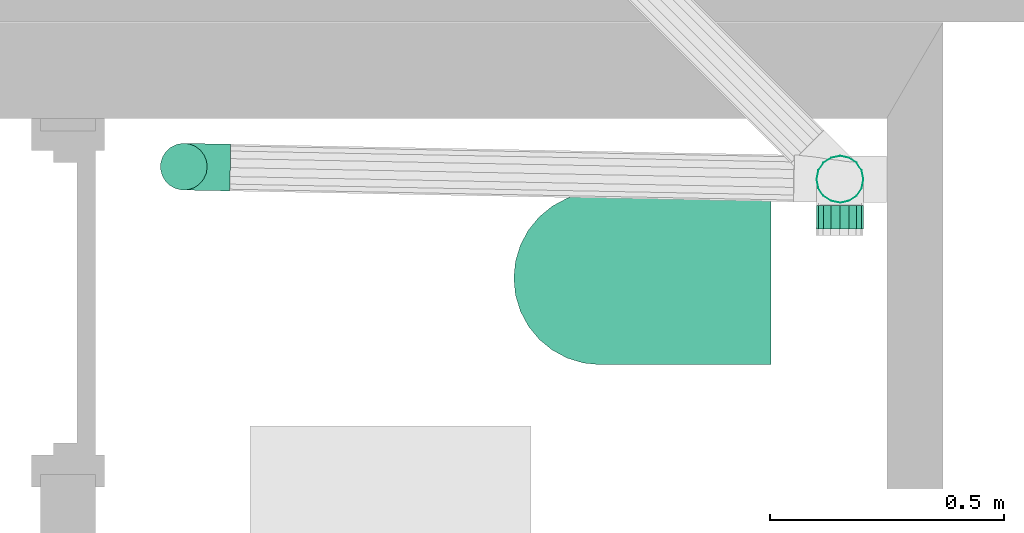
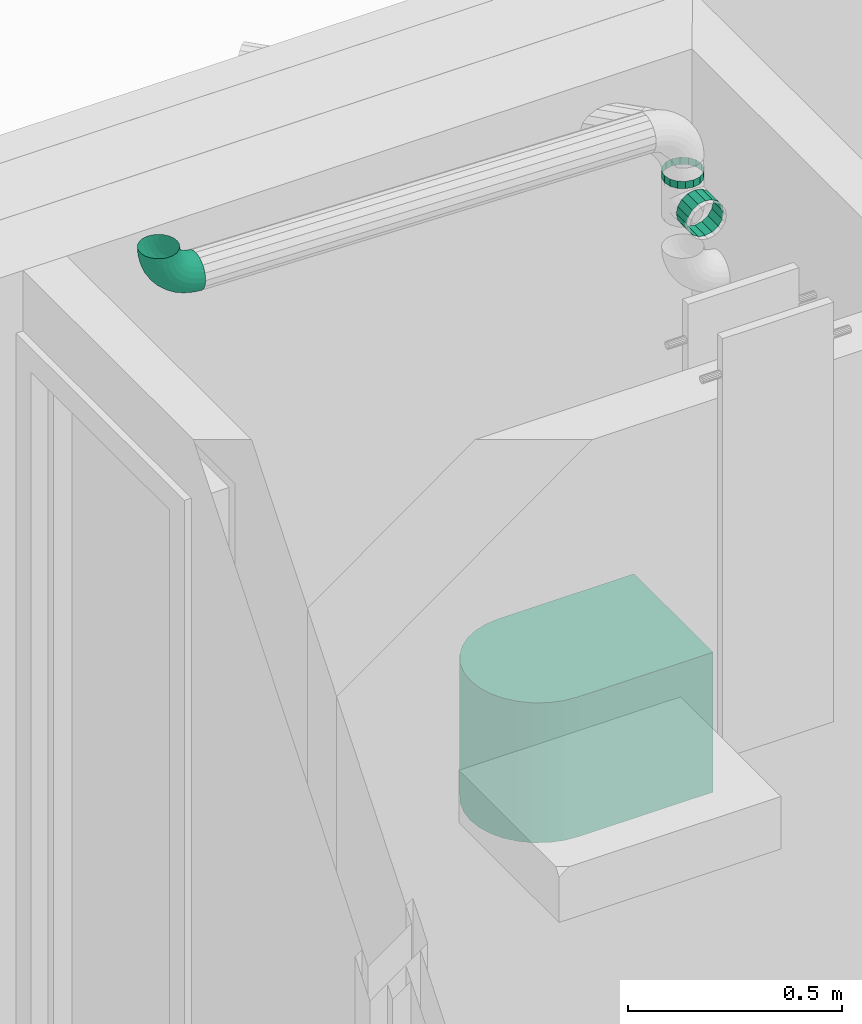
# One storey, part 17 of 23: 2 flow segments, 1 flow fitting, 1 flow terminal.
"""IFC2X3 building model written with IfcOpenShell, lengths in metres."""

from ifc_helpers import new_model, entity, si_unit, converted_unit, derived_unit, money_unit, direction, frame, origin_with_axes, place, context, subcontext, project, spatial, open_shell, faceted_brep, surface_model, material, type_object, element, save


model = new_model("IFC2X3")

# Units and contexts
model_context = context("Model", 3, precision=1e-05, world=origin_with_axes(), true_north=direction((0.0, 1.0)))
body_context = subcontext(model_context, "Body", "Model", "MODEL_VIEW", scale=1.0)
ifc_project = project(units=[si_unit("LENGTHUNIT", "METRE"), si_unit("AREAUNIT", "SQUARE_METRE"), si_unit("VOLUMEUNIT", "CUBIC_METRE"), si_unit("ABSORBEDDOSEUNIT", "GRAY"), si_unit("AMOUNTOFSUBSTANCEUNIT", "MOLE"), si_unit("DOSEEQUIVALENTUNIT", "SIEVERT"), si_unit("ELECTRICCAPACITANCEUNIT", "FARAD"), si_unit("ELECTRICCHARGEUNIT", "COULOMB"), si_unit("ELECTRICCONDUCTANCEUNIT", "SIEMENS"), si_unit("ELECTRICCURRENTUNIT", "AMPERE"), si_unit("ELECTRICRESISTANCEUNIT", "OHM"), si_unit("ELECTRICVOLTAGEUNIT", "VOLT"), si_unit("ENERGYUNIT", "JOULE"), si_unit("FORCEUNIT", "NEWTON"), si_unit("FREQUENCYUNIT", "HERTZ"), si_unit("ILLUMINANCEUNIT", "LUX"), si_unit("INDUCTANCEUNIT", "HENRY"), si_unit("LUMINOUSFLUXUNIT", "LUMEN"), si_unit("LUMINOUSINTENSITYUNIT", "CANDELA"), si_unit("MAGNETICFLUXDENSITYUNIT", "TESLA"), si_unit("MAGNETICFLUXUNIT", "WEBER"), si_unit("MASSUNIT", "GRAM"), converted_unit("PLANEANGLEUNIT", "degree", entity("IfcReal", 0.0174532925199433), si_unit("PLANEANGLEUNIT", "RADIAN"), dimensions=[0, 0, 0, 0, 0, 0, 0]), si_unit("POWERUNIT", "WATT"), si_unit("PRESSUREUNIT", "PASCAL"), si_unit("RADIOACTIVITYUNIT", "BECQUEREL"), si_unit("SOLIDANGLEUNIT", "STERADIAN"), si_unit("THERMODYNAMICTEMPERATUREUNIT", "KELVIN"), si_unit("TIMEUNIT", "SECOND"), derived_unit("ACCELERATIONUNIT", [(si_unit("LENGTHUNIT", "METRE"), 1), (si_unit("TIMEUNIT", "SECOND"), -2)]), derived_unit("ANGULARVELOCITYUNIT", [(converted_unit("PLANEANGLEUNIT", "degree", entity("IfcReal", 0.0174532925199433), si_unit("PLANEANGLEUNIT", "RADIAN"), dimensions=[0, 0, 0, 0, 0, 0, 0]), 1), (si_unit("TIMEUNIT", "SECOND"), -1)]), derived_unit("CURVATUREUNIT", [(converted_unit("PLANEANGLEUNIT", "degree", entity("IfcReal", 0.0174532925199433), si_unit("PLANEANGLEUNIT", "RADIAN"), dimensions=[0, 0, 0, 0, 0, 0, 0]), 1), (si_unit("LENGTHUNIT", "METRE"), -1)]), derived_unit("DYNAMICVISCOSITYUNIT", [(si_unit("PRESSUREUNIT", "PASCAL"), 1), (si_unit("TIMEUNIT", "SECOND"), 1)]), derived_unit("HEATFLUXDENSITYUNIT", [(si_unit("POWERUNIT", "WATT"), 1), (si_unit("LENGTHUNIT", "METRE"), -2)]), derived_unit("HEATINGVALUEUNIT", [(si_unit("ENERGYUNIT", "JOULE"), 1), (si_unit("MASSUNIT", "GRAM"), -1)]), derived_unit("INTEGERCOUNTRATEUNIT", [(si_unit("TIMEUNIT", "SECOND"), -1)]), derived_unit("IONCONCENTRATIONUNIT", [(si_unit("MASSUNIT", "GRAM"), 1), (si_unit("VOLUMEUNIT", "CUBIC_METRE"), -1)]), derived_unit("ISOTHERMALMOISTURECAPACITYUNIT", [(si_unit("VOLUMEUNIT", "CUBIC_METRE"), 1), (si_unit("MASSUNIT", "GRAM"), -1)]), derived_unit("KINEMATICVISCOSITYUNIT", [(si_unit("AREAUNIT", "SQUARE_METRE"), 1), (si_unit("TIMEUNIT", "SECOND"), -1)]), derived_unit("LINEARFORCEUNIT", [(si_unit("FORCEUNIT", "NEWTON"), 1), (si_unit("LENGTHUNIT", "METRE"), -1)]), derived_unit("LINEARMOMENTUNIT", [(si_unit("FORCEUNIT", "NEWTON"), 1), (si_unit("LENGTHUNIT", "METRE"), -1)]), derived_unit("LINEARSTIFFNESSUNIT", [(si_unit("FORCEUNIT", "NEWTON"), 1), (si_unit("LENGTHUNIT", "METRE"), -1)]), derived_unit("LINEARVELOCITYUNIT", [(si_unit("LENGTHUNIT", "METRE"), 1), (si_unit("TIMEUNIT", "SECOND"), -1)]), derived_unit("LUMINOUSINTENSITYDISTRIBUTIONUNIT", [(si_unit("LUMINOUSINTENSITYUNIT", "CANDELA"), 1), (si_unit("LUMINOUSFLUXUNIT", "LUMEN"), -1)]), derived_unit("MASSDENSITYUNIT", [(si_unit("MASSUNIT", "GRAM"), 1), (si_unit("VOLUMEUNIT", "CUBIC_METRE"), -1)]), derived_unit("MASSFLOWRATEUNIT", [(si_unit("MASSUNIT", "GRAM"), 1), (si_unit("TIMEUNIT", "SECOND"), -1)]), derived_unit("MASSPERLENGTHUNIT", [(si_unit("MASSUNIT", "GRAM"), 1), (si_unit("LENGTHUNIT", "METRE"), -1)]), derived_unit("MODULUSOFELASTICITYUNIT", [(si_unit("FORCEUNIT", "NEWTON"), 1), (si_unit("AREAUNIT", "SQUARE_METRE"), -1)]), derived_unit("MODULUSOFLINEARSUBGRADEREACTIONUNIT", [(si_unit("FORCEUNIT", "NEWTON"), 1), (si_unit("LENGTHUNIT", "METRE"), -2)]), derived_unit("MODULUSOFROTATIONALSUBGRADEREACTIONUNIT", [(si_unit("FORCEUNIT", "NEWTON"), 1), (si_unit("LENGTHUNIT", "METRE"), 1)]), derived_unit("MODULUSOFSUBGRADEREACTIONUNIT", [(si_unit("FORCEUNIT", "NEWTON"), 1), (si_unit("VOLUMEUNIT", "CUBIC_METRE"), -1)]), derived_unit("MOISTUREDIFFUSIVITYUNIT", [(si_unit("VOLUMEUNIT", "CUBIC_METRE"), 1), (si_unit("TIMEUNIT", "SECOND"), -1)]), derived_unit("MOLECULARWEIGHTUNIT", [(si_unit("MASSUNIT", "GRAM"), 1), (si_unit("AMOUNTOFSUBSTANCEUNIT", "MOLE"), -1)]), derived_unit("PLANARFORCEUNIT", [(si_unit("FORCEUNIT", "NEWTON"), 1), (si_unit("LENGTHUNIT", "METRE"), -2)]), derived_unit("ROTATIONALFREQUENCYUNIT", [(si_unit("TIMEUNIT", "SECOND"), -1)]), derived_unit("ROTATIONALMASSUNIT", [(si_unit("MASSUNIT", "GRAM"), 1), (si_unit("LENGTHUNIT", "METRE"), 2)]), derived_unit("ROTATIONALSTIFFNESSUNIT", [(si_unit("FORCEUNIT", "NEWTON"), 1), (si_unit("LENGTHUNIT", "METRE"), 1), (converted_unit("PLANEANGLEUNIT", "degree", entity("IfcReal", 0.0174532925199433), si_unit("PLANEANGLEUNIT", "RADIAN"), dimensions=[0, 0, 0, 0, 0, 0, 0]), -1)]), derived_unit("SECTIONAREAINTEGRALUNIT", [(si_unit("LENGTHUNIT", "METRE"), 5)]), derived_unit("SECTIONMODULUSUNIT", [(si_unit("LENGTHUNIT", "METRE"), 3)]), derived_unit("SHEARMODULUSUNIT", [(si_unit("FORCEUNIT", "NEWTON"), 1), (si_unit("AREAUNIT", "SQUARE_METRE"), -1)]), derived_unit("SOUNDPOWERUNIT", [(si_unit("ENERGYUNIT", "JOULE"), 1), (si_unit("TIMEUNIT", "SECOND"), -1)]), derived_unit("SPECIFICHEATCAPACITYUNIT", [(si_unit("FORCEUNIT", "NEWTON"), 1), (si_unit("MASSUNIT", "GRAM"), -1), (si_unit("THERMODYNAMICTEMPERATUREUNIT", "KELVIN"), -1)]), derived_unit("TEMPERATUREGRADIENTUNIT", [(si_unit("THERMODYNAMICTEMPERATUREUNIT", "KELVIN"), 1), (si_unit("LENGTHUNIT", "METRE"), -1)]), derived_unit("THERMALADMITTANCEUNIT", [(si_unit("POWERUNIT", "WATT"), 1), (si_unit("AREAUNIT", "SQUARE_METRE"), -1), (si_unit("THERMODYNAMICTEMPERATUREUNIT", "KELVIN"), -1)]), derived_unit("THERMALCONDUCTANCEUNIT", [(si_unit("POWERUNIT", "WATT"), 1), (si_unit("LENGTHUNIT", "METRE"), -1), (si_unit("THERMODYNAMICTEMPERATUREUNIT", "KELVIN"), -1)]), derived_unit("THERMALEXPANSIONCOEFFICIENTUNIT", [(si_unit("THERMODYNAMICTEMPERATUREUNIT", "KELVIN"), -1)]), derived_unit("THERMALRESISTANCEUNIT", [(si_unit("AREAUNIT", "SQUARE_METRE"), 1), (si_unit("POWERUNIT", "WATT"), -1)]), derived_unit("THERMALTRANSMITTANCEUNIT", [(si_unit("POWERUNIT", "WATT"), 1), (si_unit("AREAUNIT", "SQUARE_METRE"), -1), (si_unit("THERMODYNAMICTEMPERATUREUNIT", "KELVIN"), -1)]), derived_unit("TORQUEUNIT", [(si_unit("FORCEUNIT", "NEWTON"), 1), (si_unit("LENGTHUNIT", "METRE"), 1)]), derived_unit("VAPORPERMEABILITYUNIT", [(si_unit("MASSUNIT", "GRAM"), 1), (si_unit("TIMEUNIT", "SECOND"), -1)]), derived_unit("VOLUMETRICFLOWRATEUNIT", [(si_unit("VOLUMEUNIT", "CUBIC_METRE"), 1), (si_unit("TIMEUNIT", "SECOND"), -1)]), derived_unit("WARPINGCONSTANTUNIT", [(si_unit("LENGTHUNIT", "METRE"), 6)]), derived_unit("WARPINGMOMENTUNIT", [(si_unit("FORCEUNIT", "NEWTON"), 1), (si_unit("LENGTHUNIT", "METRE"), 2)]), money_unit("GBP")], contexts=[model_context])

# Site, building, storey, space
site_placement = place(None, origin_with_axes())
site = spatial("IfcSite", under=ifc_project, at=site_placement, Name="Site", CompositionType="ELEMENT")
building_placement = place(site_placement, origin_with_axes())
building = spatial("IfcBuilding", under=site, at=building_placement, Name="Building01", CompositionType="ELEMENT")
storey_placement = place(building_placement, frame((0.0, 0.0, 2.6), z_axis=(0.0, 0.0, 1.0), x_axis=(1.0, 0.0, 0.0)))
storey = spatial("IfcBuildingStorey", under=building, at=storey_placement, Name="MF", CompositionType="ELEMENT", Elevation=2.6)
space_placement = place(storey_placement, frame((15.816265, 6.196984, 0.0), z_axis=(0.0, 0.0, 1.0), x_axis=(1.0, 0.0, 0.0)))
space = spatial("IfcSpace", under=storey, at=space_placement, Name="WC", CompositionType="ELEMENT", InteriorOrExteriorSpace="NOTDEFINED")

# Flow segments
ifc_material = material(Name="M_BSUK_ColdWater")
pipe_segment_type = type_object("IfcPipeSegmentType", Name="M-BmpStraightpipe-DefaultPipe", PredefinedType="RIGIDSEGMENT")
placement = place(building_placement, origin_with_axes())
flow_segment_1_placement = place(placement, frame((17.406946, 8.516912, 4.670054), z_axis=(1.0, 0.0, 0.0), x_axis=(0.0, 0.0, -1.0)))
element("IfcFlowSegment", 1, at=flow_segment_1_placement, inside=space, type_object=pipe_segment_type, material=ifc_material, Name="M-BmpStraightpipe-DefaultPipe", ObjectType="M-BmpStraightpipe-DefaultPipe", context=body_context, shape_type="Brep", body=[
    faceted_brep([(0.020788, 0.0, -0.05), (0.0, 0.0, -0.05), (0.0, 0.019134, -0.046194), (0.020788, 0.019134, -0.046194), (0.0, 0.035355, -0.035355), (0.020788, 0.035355, -0.035355), (0.0, 0.046194, -0.019134), (0.020788, 0.046194, -0.019134), (0.0, 0.05, 0.0), (0.020788, 0.05, 0.0), (0.0, 0.046194, 0.019134), (0.020788, 0.046194, 0.019134), (0.0, 0.035355, 0.035355), (0.020788, 0.035355, 0.035355), (0.0, 0.019134, 0.046194), (0.020788, 0.019134, 0.046194), (0.0, 0.0, 0.05), (0.020788, 0.0, 0.05), (0.0, -0.019134, 0.046194), (0.020788, -0.019134, 0.046194), (0.0, -0.035355, 0.035355), (0.020788, -0.035355, 0.035355), (0.0, -0.046194, 0.019134), (0.020788, -0.046194, 0.019134), (0.0, -0.05, 0.0), (0.020788, -0.05, 0.0), (0.0, -0.046194, -0.019134), (0.020788, -0.046194, -0.019134), (0.0, -0.035355, -0.035355), (0.020788, -0.035355, -0.035355), (0.0, -0.019134, -0.046194), (0.020788, -0.019134, -0.046194)], [[[0, 1, 2, 3]], [[3, 2, 4, 5]], [[5, 4, 6, 7]], [[7, 6, 8, 9]], [[9, 8, 10, 11]], [[11, 10, 12, 13]], [[13, 12, 14, 15]], [[15, 14, 16, 17]], [[17, 16, 18, 19]], [[19, 18, 20, 21]], [[21, 20, 22, 23]], [[23, 22, 24, 25]], [[25, 24, 26, 27]], [[27, 26, 28, 29]], [[29, 28, 30, 31]], [[31, 30, 1, 0]]]),
])
flow_segment_2_placement = place(placement, frame((17.406946, 8.461286, 4.594332), z_axis=(0.0, 0.0, 1.0), x_axis=(0.0, -1.0, 0.0)))
element("IfcFlowSegment", 2, at=flow_segment_2_placement, inside=space, type_object=pipe_segment_type, material=ifc_material, Name="M-BmpStraightpipe-DefaultPipe", ObjectType="M-BmpStraightpipe-DefaultPipe", context=body_context, shape_type="Brep", body=[
    faceted_brep([(0.05, 0.0, -0.05), (0.0, 0.0, -0.05), (0.0, 0.019134, -0.046194), (0.05, 0.019134, -0.046194), (0.0, 0.035355, -0.035355), (0.05, 0.035355, -0.035355), (0.0, 0.046194, -0.019134), (0.05, 0.046194, -0.019134), (0.0, 0.05, 0.0), (0.05, 0.05, 0.0), (0.0, 0.046194, 0.019134), (0.05, 0.046194, 0.019134), (0.0, 0.035355, 0.035355), (0.05, 0.035355, 0.035355), (0.0, 0.019134, 0.046194), (0.05, 0.019134, 0.046194), (0.0, 0.0, 0.05), (0.05, 0.0, 0.05), (0.0, -0.019134, 0.046194), (0.05, -0.019134, 0.046194), (0.0, -0.035355, 0.035355), (0.05, -0.035355, 0.035355), (0.0, -0.046194, 0.019134), (0.05, -0.046194, 0.019134), (0.0, -0.05, 0.0), (0.05, -0.05, 0.0), (0.0, -0.046194, -0.019134), (0.05, -0.046194, -0.019134), (0.0, -0.035355, -0.035355), (0.05, -0.035355, -0.035355), (0.0, -0.019134, -0.046194), (0.05, -0.019134, -0.046194)], [[[0, 1, 2, 3]], [[3, 2, 4, 5]], [[5, 4, 6, 7]], [[7, 6, 8, 9]], [[9, 8, 10, 11]], [[11, 10, 12, 13]], [[13, 12, 14, 15]], [[15, 14, 16, 17]], [[17, 16, 18, 19]], [[19, 18, 20, 21]], [[21, 20, 22, 23]], [[23, 22, 24, 25]], [[25, 24, 26, 27]], [[27, 26, 28, 29]], [[29, 28, 30, 31]], [[31, 30, 1, 0]]]),
])

# Flow fitting
pipe_fitting_type = type_object("IfcPipeFittingType", Name="M-BmpElbow-DefaultElbow", PredefinedType="BEND")
flow_fitting_placement = place(placement, frame((16.004895, 8.543966, 4.923579), z_axis=(-0.99981388, 0.01929275, 0.0), x_axis=(0.0, 0.0, -1.0)))
element("IfcFlowFitting", 3, at=flow_fitting_placement, inside=space, type_object=pipe_fitting_type, material=ifc_material, Name="M-BmpElbow-DefaultElbow", ObjectType="M-BmpElbow-DefaultElbow", context=body_context, shape_type="SurfaceModel", body=[
    surface_model("IfcShellBasedSurfaceModel", [(0.008048, -0.01349, -0.048774), (0.0, -0.01349, -0.048146), (0.0, 0.0, -0.05), (0.00776, 0.0, -0.050606), (0.0159, -0.01349, -0.050644), (0.015332, 0.0, -0.052409), (0.023368, -0.01349, -0.05371), (0.022532, 0.0, -0.055365), (0.030269, -0.01349, -0.057897), (0.029187, 0.0, -0.059403), (0.036437, -0.01349, -0.063105), (0.035134, 0.0, -0.064424), (0.041721, -0.01349, -0.069207), (0.040229, 0.0, -0.070308), (0.045995, -0.01349, -0.076055), (0.04435, 0.0, -0.076912), (0.049154, -0.01349, -0.083484), (0.047396, 0.0, -0.084074), (0.051121, -0.01349, -0.091313), (0.049293, 0.0, -0.091623), (0.05185, -0.01349, -0.099352), (0.049996, 0.0, -0.099375), (0.00889, -0.025979, -0.043415), (0.0, -0.025979, -0.042721), (0.017564, -0.025979, -0.04548), (0.025813, -0.025979, -0.048867), (0.033436, -0.025979, -0.053493), (0.040248, -0.025979, -0.059245), (0.046086, -0.025979, -0.065986), (0.050807, -0.025979, -0.07355), (0.054296, -0.025979, -0.081756), (0.056469, -0.025979, -0.090404), (0.057275, -0.025979, -0.099284), (0.010223, -0.036542, -0.034926), (0.0, -0.036542, -0.034128), (0.020199, -0.036542, -0.037301), (0.029685, -0.036542, -0.041196), (0.038452, -0.036542, -0.046515), (0.046287, -0.036542, -0.053131), (0.053, -0.036542, -0.060883), (0.058429, -0.036542, -0.069582), (0.062442, -0.036542, -0.079019), (0.064941, -0.036542, -0.088964), (0.065867, -0.036542, -0.099177), (0.01195, -0.044394, -0.023936), (0.0, -0.044394, -0.023003), (0.02361, -0.044394, -0.026712), (0.034698, -0.044394, -0.031265), (0.044946, -0.044394, -0.037483), (0.054104, -0.044394, -0.045216), (0.061951, -0.044394, -0.054277), (0.068296, -0.044394, -0.064445), (0.072987, -0.044394, -0.075476), (0.075908, -0.044394, -0.0871), (0.076991, -0.044394, -0.099038), (0.013941, -0.048954, -0.011261), (0.0, -0.048954, -0.010173), (0.027544, -0.048954, -0.0145), (0.04048, -0.048954, -0.019811), (0.052435, -0.048954, -0.027065), (0.063119, -0.048954, -0.036087), (0.072274, -0.048954, -0.046657), (0.079677, -0.048954, -0.058521), (0.085149, -0.048954, -0.071389), (0.088558, -0.048954, -0.084951), (0.08982, -0.048954, -0.098877), (0.01605, -0.049883, 0.002159), (0.0, -0.049883, 0.003412), (0.03171, -0.049883, -0.00157), (0.046602, -0.049883, -0.007684), (0.060365, -0.049883, -0.016035), (0.072665, -0.049883, -0.026421), (0.083204, -0.049883, -0.03859), (0.091727, -0.049883, -0.052247), (0.098026, -0.049883, -0.067062), (0.101951, -0.049883, -0.082675), (0.103404, -0.049883, -0.098707), (0.018119, -0.047113, 0.015329), (0.0, -0.047113, 0.016744), (0.035798, -0.047113, 0.01112), (0.05261, -0.047113, 0.004218), (0.068147, -0.047113, -0.00521), (0.082033, -0.047113, -0.016935), (0.093931, -0.047113, -0.030673), (0.103552, -0.047113, -0.046091), (0.110664, -0.047113, -0.062816), (0.115094, -0.047113, -0.080441), (0.116735, -0.047113, -0.098541), (0.019995, -0.040848, 0.027273), (0.0, -0.040848, 0.028834), (0.039505, -0.040848, 0.022628), (0.058059, -0.040848, 0.01501), (0.075205, -0.040848, 0.004606), (0.090528, -0.040848, -0.008333), (0.103658, -0.040848, -0.023494), (0.114276, -0.040848, -0.040508), (0.122124, -0.040848, -0.058965), (0.127013, -0.040848, -0.078416), (0.128824, -0.040848, -0.09839), (0.021539, -0.031554, 0.037104), (0.0, -0.031554, 0.038786), (0.042557, -0.031554, 0.0321), (0.062543, -0.031554, 0.023894), (0.081014, -0.031554, 0.012686), (0.097521, -0.031554, -0.001252), (0.111665, -0.031554, -0.017584), (0.123103, -0.031554, -0.035913), (0.131557, -0.031554, -0.055795), (0.136824, -0.031554, -0.076749), (0.138775, -0.031554, -0.098265), (0.022638, -0.01992, 0.044093), (0.0, -0.01992, 0.045861), (0.044726, -0.01992, 0.038834), (0.065732, -0.01992, 0.03021), (0.085144, -0.01992, 0.018431), (0.102492, -0.01992, 0.003782), (0.117357, -0.01992, -0.013383), (0.129378, -0.01992, -0.032646), (0.138264, -0.01992, -0.053542), (0.143799, -0.01992, -0.075563), (0.145849, -0.01992, -0.098177), (0.023208, -0.006808, 0.047722), (0.0, -0.006808, 0.049534), (0.045853, -0.006808, 0.042331), (0.067387, -0.006808, 0.03349), (0.087288, -0.006808, 0.021414), (0.105074, -0.006808, 0.006395), (0.120313, -0.006808, -0.011201), (0.132637, -0.006808, -0.03095), (0.141746, -0.006808, -0.052372), (0.147421, -0.006808, -0.074948), (0.149523, -0.006808, -0.098131), (0.023208, 0.006808, 0.047722), (0.0, 0.006808, 0.049534), (0.045853, 0.006808, 0.042331), (0.067387, 0.006808, 0.03349), (0.087288, 0.006808, 0.021414), (0.105074, 0.006808, 0.006395), (0.120313, 0.006808, -0.011201), (0.132637, 0.006808, -0.03095), (0.141746, 0.006808, -0.052372), (0.147421, 0.006808, -0.074948), (0.149523, 0.006808, -0.098131), (0.022638, 0.01992, 0.044093), (0.0, 0.01992, 0.045861), (0.044726, 0.01992, 0.038834), (0.065732, 0.01992, 0.03021), (0.085144, 0.01992, 0.018431), (0.102492, 0.01992, 0.003782), (0.117357, 0.01992, -0.013383), (0.129378, 0.01992, -0.032646), (0.138264, 0.01992, -0.053542), (0.143799, 0.01992, -0.075563), (0.145849, 0.01992, -0.098177), (0.021539, 0.031554, 0.037104), (0.0, 0.031554, 0.038786), (0.042557, 0.031554, 0.0321), (0.062543, 0.031554, 0.023894), (0.081014, 0.031554, 0.012686), (0.097521, 0.031554, -0.001252), (0.111665, 0.031554, -0.017584), (0.123103, 0.031554, -0.035913), (0.131557, 0.031554, -0.055795), (0.136824, 0.031554, -0.076749), (0.138775, 0.031554, -0.098265), (0.019995, 0.040848, 0.027273), (0.0, 0.040848, 0.028834), (0.039505, 0.040848, 0.022628), (0.058059, 0.040848, 0.01501), (0.075205, 0.040848, 0.004606), (0.090528, 0.040848, -0.008333), (0.103658, 0.040848, -0.023494), (0.114276, 0.040848, -0.040508), (0.122124, 0.040848, -0.058965), (0.127013, 0.040848, -0.078416), (0.128824, 0.040848, -0.09839), (0.018119, 0.047113, 0.015329), (0.0, 0.047113, 0.016744), (0.035798, 0.047113, 0.01112), (0.05261, 0.047113, 0.004218), (0.068147, 0.047113, -0.00521), (0.082033, 0.047113, -0.016935), (0.093931, 0.047113, -0.030673), (0.103552, 0.047113, -0.046091), (0.110664, 0.047113, -0.062816), (0.115094, 0.047113, -0.080441), (0.116735, 0.047113, -0.098541), (0.01605, 0.049883, 0.002159), (0.0, 0.049883, 0.003412), (0.03171, 0.049883, -0.00157), (0.046602, 0.049883, -0.007684), (0.060365, 0.049883, -0.016035), (0.072665, 0.049883, -0.026421), (0.083204, 0.049883, -0.03859), (0.091727, 0.049883, -0.052247), (0.098026, 0.049883, -0.067062), (0.101951, 0.049883, -0.082675), (0.103404, 0.049883, -0.098707), (0.013941, 0.048954, -0.011261), (0.0, 0.048954, -0.010173), (0.027544, 0.048954, -0.0145), (0.04048, 0.048954, -0.019811), (0.052435, 0.048954, -0.027065), (0.063119, 0.048954, -0.036087), (0.072274, 0.048954, -0.046657), (0.079677, 0.048954, -0.058521), (0.085149, 0.048954, -0.071389), (0.088558, 0.048954, -0.084951), (0.08982, 0.048954, -0.098877), (0.01195, 0.044394, -0.023936), (0.0, 0.044394, -0.023003), (0.02361, 0.044394, -0.026712), (0.034698, 0.044394, -0.031265), (0.044946, 0.044394, -0.037483), (0.054104, 0.044394, -0.045216), (0.061951, 0.044394, -0.054277), (0.068296, 0.044394, -0.064445), (0.072987, 0.044394, -0.075476), (0.075908, 0.044394, -0.0871), (0.076991, 0.044394, -0.099038), (0.010223, 0.036542, -0.034926), (0.0, 0.036542, -0.034128), (0.020199, 0.036542, -0.037301), (0.029685, 0.036542, -0.041196), (0.038452, 0.036542, -0.046515), (0.046287, 0.036542, -0.053131), (0.053, 0.036542, -0.060883), (0.058429, 0.036542, -0.069582), (0.062442, 0.036542, -0.079019), (0.064941, 0.036542, -0.088964), (0.065867, 0.036542, -0.099177), (0.00889, 0.025979, -0.043415), (0.0, 0.025979, -0.042721), (0.017564, 0.025979, -0.04548), (0.025813, 0.025979, -0.048867), (0.033436, 0.025979, -0.053493), (0.040248, 0.025979, -0.059245), (0.046086, 0.025979, -0.065986), (0.050807, 0.025979, -0.07355), (0.054296, 0.025979, -0.081756), (0.056469, 0.025979, -0.090404), (0.057275, 0.025979, -0.099284), (0.008048, 0.01349, -0.048774), (0.0, 0.01349, -0.048146), (0.0159, 0.01349, -0.050644), (0.023368, 0.01349, -0.05371), (0.030269, 0.01349, -0.057897), (0.036437, 0.01349, -0.063105), (0.041721, 0.01349, -0.069207), (0.045995, 0.01349, -0.076055), (0.049154, 0.01349, -0.083484), (0.051121, 0.01349, -0.091313), (0.05185, 0.01349, -0.099352)], [open_shell([[[0, 1, 2, 3]], [[4, 0, 3, 5]], [[6, 4, 5, 7]], [[8, 6, 7, 9]], [[10, 8, 9, 11]], [[12, 10, 11, 13]], [[14, 12, 13, 15]], [[16, 14, 15, 17]], [[18, 16, 17, 19]], [[20, 18, 19, 21]], [[22, 23, 1, 0]], [[24, 22, 0, 4]], [[25, 24, 4, 6]], [[26, 25, 6, 8]], [[27, 26, 8, 10]], [[28, 27, 10, 12]], [[29, 28, 12, 14]], [[30, 29, 14, 16]], [[31, 30, 16, 18]], [[32, 31, 18, 20]], [[33, 34, 23, 22]], [[35, 33, 22, 24]], [[36, 35, 24, 25]], [[37, 36, 25, 26]], [[38, 37, 26, 27]], [[39, 38, 27, 28]], [[40, 39, 28, 29]], [[41, 40, 29, 30]], [[42, 41, 30, 31]], [[43, 42, 31, 32]], [[44, 45, 34, 33]], [[46, 44, 33, 35]], [[47, 46, 35, 36]], [[48, 47, 36, 37]], [[49, 48, 37, 38]], [[50, 49, 38, 39]], [[51, 50, 39, 40]], [[52, 51, 40, 41]], [[53, 52, 41, 42]], [[54, 53, 42, 43]], [[55, 56, 45, 44]], [[57, 55, 44, 46]], [[58, 57, 46, 47]], [[59, 58, 47, 48]], [[60, 59, 48, 49]], [[61, 60, 49, 50]], [[62, 61, 50, 51]], [[63, 62, 51, 52]], [[64, 63, 52, 53]], [[65, 64, 53, 54]], [[66, 67, 56, 55]], [[68, 66, 55, 57]], [[69, 68, 57, 58]], [[70, 69, 58, 59]], [[71, 70, 59, 60]], [[72, 71, 60, 61]], [[73, 72, 61, 62]], [[74, 73, 62, 63]], [[75, 74, 63, 64]], [[76, 75, 64, 65]], [[77, 78, 67, 66]], [[79, 77, 66, 68]], [[80, 79, 68, 69]], [[81, 80, 69, 70]], [[82, 81, 70, 71]], [[83, 82, 71, 72]], [[84, 83, 72, 73]], [[85, 84, 73, 74]], [[86, 85, 74, 75]], [[87, 86, 75, 76]], [[88, 89, 78, 77]], [[90, 88, 77, 79]], [[91, 90, 79, 80]], [[92, 91, 80, 81]], [[93, 92, 81, 82]], [[94, 93, 82, 83]], [[95, 94, 83, 84]], [[96, 95, 84, 85]], [[97, 96, 85, 86]], [[98, 97, 86, 87]], [[99, 100, 89, 88]], [[101, 99, 88, 90]], [[102, 101, 90, 91]], [[103, 102, 91, 92]], [[104, 103, 92, 93]], [[105, 104, 93, 94]], [[106, 105, 94, 95]], [[107, 106, 95, 96]], [[108, 107, 96, 97]], [[109, 108, 97, 98]], [[110, 111, 100, 99]], [[112, 110, 99, 101]], [[113, 112, 101, 102]], [[114, 113, 102, 103]], [[115, 114, 103, 104]], [[116, 115, 104, 105]], [[117, 116, 105, 106]], [[118, 117, 106, 107]], [[119, 118, 107, 108]], [[120, 119, 108, 109]], [[121, 122, 111, 110]], [[123, 121, 110, 112]], [[124, 123, 112, 113]], [[125, 124, 113, 114]], [[126, 125, 114, 115]], [[127, 126, 115, 116]], [[128, 127, 116, 117]], [[129, 128, 117, 118]], [[130, 129, 118, 119]], [[131, 130, 119, 120]], [[132, 133, 122, 121]], [[134, 132, 121, 123]], [[135, 134, 123, 124]], [[136, 135, 124, 125]], [[137, 136, 125, 126]], [[138, 137, 126, 127]], [[139, 138, 127, 128]], [[140, 139, 128, 129]], [[141, 140, 129, 130]], [[142, 141, 130, 131]], [[143, 144, 133, 132]], [[145, 143, 132, 134]], [[146, 145, 134, 135]], [[147, 146, 135, 136]], [[148, 147, 136, 137]], [[149, 148, 137, 138]], [[150, 149, 138, 139]], [[151, 150, 139, 140]], [[152, 151, 140, 141]], [[153, 152, 141, 142]], [[154, 155, 144, 143]], [[156, 154, 143, 145]], [[157, 156, 145, 146]], [[158, 157, 146, 147]], [[159, 158, 147, 148]], [[160, 159, 148, 149]], [[161, 160, 149, 150]], [[162, 161, 150, 151]], [[163, 162, 151, 152]], [[164, 163, 152, 153]], [[165, 166, 155, 154]], [[167, 165, 154, 156]], [[168, 167, 156, 157]], [[169, 168, 157, 158]], [[170, 169, 158, 159]], [[171, 170, 159, 160]], [[172, 171, 160, 161]], [[173, 172, 161, 162]], [[174, 173, 162, 163]], [[175, 174, 163, 164]], [[176, 177, 166, 165]], [[178, 176, 165, 167]], [[179, 178, 167, 168]], [[180, 179, 168, 169]], [[181, 180, 169, 170]], [[182, 181, 170, 171]], [[183, 182, 171, 172]], [[184, 183, 172, 173]], [[185, 184, 173, 174]], [[186, 185, 174, 175]], [[187, 188, 177, 176]], [[189, 187, 176, 178]], [[190, 189, 178, 179]], [[191, 190, 179, 180]], [[192, 191, 180, 181]], [[193, 192, 181, 182]], [[194, 193, 182, 183]], [[195, 194, 183, 184]], [[196, 195, 184, 185]], [[197, 196, 185, 186]], [[198, 199, 188, 187]], [[200, 198, 187, 189]], [[201, 200, 189, 190]], [[202, 201, 190, 191]], [[203, 202, 191, 192]], [[204, 203, 192, 193]], [[205, 204, 193, 194]], [[206, 205, 194, 195]], [[207, 206, 195, 196]], [[208, 207, 196, 197]], [[209, 210, 199, 198]], [[211, 209, 198, 200]], [[212, 211, 200, 201]], [[213, 212, 201, 202]], [[214, 213, 202, 203]], [[215, 214, 203, 204]], [[216, 215, 204, 205]], [[217, 216, 205, 206]], [[218, 217, 206, 207]], [[219, 218, 207, 208]], [[220, 221, 210, 209]], [[222, 220, 209, 211]], [[223, 222, 211, 212]], [[224, 223, 212, 213]], [[225, 224, 213, 214]], [[226, 225, 214, 215]], [[227, 226, 215, 216]], [[228, 227, 216, 217]], [[229, 228, 217, 218]], [[230, 229, 218, 219]], [[231, 232, 221, 220]], [[233, 231, 220, 222]], [[234, 233, 222, 223]], [[235, 234, 223, 224]], [[236, 235, 224, 225]], [[237, 236, 225, 226]], [[238, 237, 226, 227]], [[239, 238, 227, 228]], [[240, 239, 228, 229]], [[241, 240, 229, 230]], [[242, 243, 232, 231]], [[244, 242, 231, 233]], [[245, 244, 233, 234]], [[246, 245, 234, 235]], [[247, 246, 235, 236]], [[248, 247, 236, 237]], [[249, 248, 237, 238]], [[250, 249, 238, 239]], [[251, 250, 239, 240]], [[252, 251, 240, 241]], [[3, 2, 243, 242]], [[5, 3, 242, 244]], [[7, 5, 244, 245]], [[9, 7, 245, 246]], [[11, 9, 246, 247]], [[13, 11, 247, 248]], [[15, 13, 248, 249]], [[17, 15, 249, 250]], [[19, 17, 250, 251]], [[21, 19, 251, 252]]])]),
])

# Flow terminal
sanitary_terminal_type = type_object("IfcSanitaryTerminalType", Name="SHE_A-Toilet_base", PredefinedType="NOTDEFINED")
flow_terminal_placement = place(storey_placement, frame((16.984942, 8.305863, 0.781), z_axis=(0.0, 0.0, 1.0), x_axis=(-1.0, 0.0, 0.0)))
element("IfcFlowTerminal", 4, at=flow_terminal_placement, inside=space, type_object=sanitary_terminal_type, Name="00", ObjectType="SHE_A-Toilet_base", context=body_context, shape_type="Brep", body=[
    faceted_brep([(0.089995, 0.185008, -0.2), (0.126088, 0.181454, -0.2), (0.160795, 0.170926, -0.2), (0.19278, 0.153829, -0.2), (0.220816, 0.130821, -0.2), (0.243824, 0.102785, -0.2), (0.26092, 0.0708, -0.2), (0.271448, 0.036093, -0.2), (0.275003, 0.0, -0.2), (0.271448, -0.036093, -0.2), (0.26092, -0.0708, -0.2), (0.243824, -0.102785, -0.2), (0.220816, -0.130821, -0.2), (0.19278, -0.153829, -0.2), (0.160795, -0.170926, -0.2), (0.126088, -0.181454, -0.2), (0.089995, -0.185009, -0.2), (-0.275003, -0.185009, -0.2), (-0.275003, 0.185008, -0.2), (-0.275003, 0.185008, 0.2), (-0.275003, -0.185009, 0.2), (0.089995, -0.185009, 0.2), (0.126088, -0.181454, 0.2), (0.160795, -0.170926, 0.2), (0.19278, -0.153829, 0.2), (0.220816, -0.130821, 0.2), (0.243824, -0.102785, 0.2), (0.26092, -0.0708, 0.2), (0.271448, -0.036093, 0.2), (0.275003, 0.0, 0.2), (0.271448, 0.036093, 0.2), (0.26092, 0.0708, 0.2), (0.243824, 0.102785, 0.2), (0.220816, 0.130821, 0.2), (0.19278, 0.153829, 0.2), (0.160795, 0.170926, 0.2), (0.126088, 0.181454, 0.2), (0.089995, 0.185008, 0.2)], [[[0, 1, 2, 3, 4, 5, 6, 7, 8, 9, 10, 11, 12, 13, 14, 15, 16, 17, 18]], [[19, 20, 21, 22, 23, 24, 25, 26, 27, 28, 29, 30, 31, 32, 33, 34, 35, 36, 37]], [[15, 22, 21, 16]], [[14, 23, 22, 15]], [[13, 24, 23, 14]], [[12, 25, 24, 13]], [[11, 26, 25, 12]], [[10, 27, 26, 11]], [[9, 28, 27, 10]], [[8, 29, 28, 9]], [[7, 30, 29, 8]], [[6, 31, 30, 7]], [[5, 32, 31, 6]], [[4, 33, 32, 5]], [[3, 34, 33, 4]], [[2, 35, 34, 3]], [[1, 36, 35, 2]], [[0, 37, 36, 1]], [[16, 21, 20, 17]], [[17, 20, 19, 18]], [[18, 19, 37, 0]]]),
])

save(model, "model.ifc")
